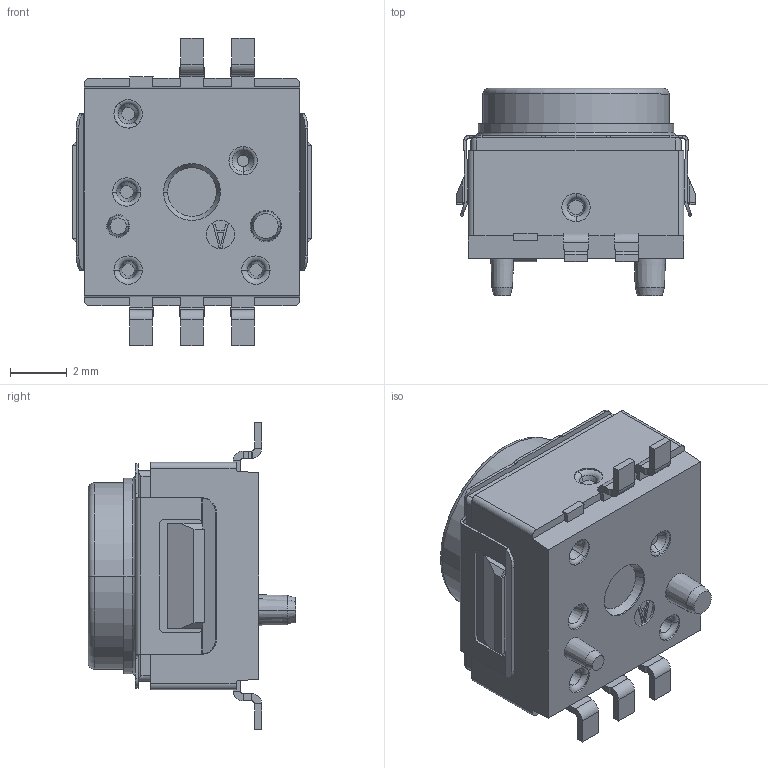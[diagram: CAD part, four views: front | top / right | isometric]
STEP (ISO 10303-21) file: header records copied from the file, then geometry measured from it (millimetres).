
FILE_DESCRIPTION((''),'2;1');
FILE_NAME('CU71M01003FP','2011-05-04T',('eric.riffaud'),(''),'PRO/ENGINEER BY PARAMETRIC TECHNOLOGY CORPORATION, 2010160','PRO/ENGINEER BY PARAMETRIC TECHNOLOGY CORPORATION, 2010160','');
FILE_SCHEMA(('CONFIG_CONTROL_DESIGN'));
Length unit declared in the file: inch
Products named in the file (1): CU71M01003FP
Bounding box: 8.4 x 7.3 x 10.82 mm (x, y, z)
Volume: 304 mm3; surface area: 477.6 mm2
Topology: 1 solids, 1 shells, 432 faces, 1058 edges, 642 vertices
Faces by surface type: plane 239, cylinder 117, cone 30, bspline 22, torus 20, sphere 4
Entity records: 13144 total; most frequent: CARTESIAN_POINT 2892, DIRECTION 2146, ORIENTED_EDGE 2116, EDGE_CURVE 1058, AXIS2_PLACEMENT_3D 734, VECTOR 678, LINE 678, VERTEX_POINT 642
